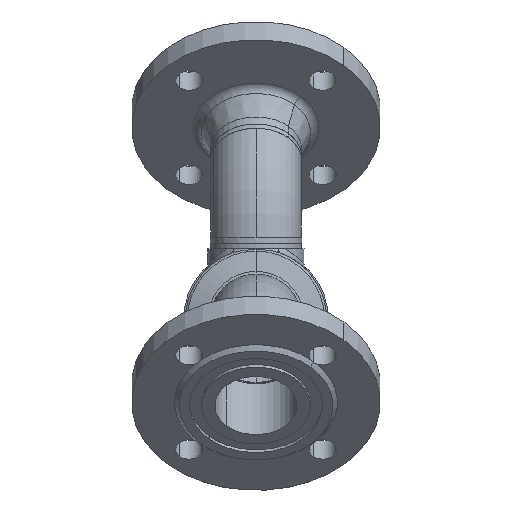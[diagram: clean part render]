
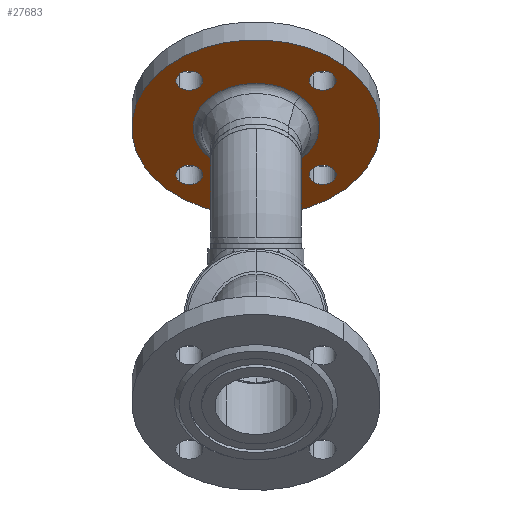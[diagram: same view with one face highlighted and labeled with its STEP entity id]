
A CAD part, front view. The second image highlights one B-rep face of the part: STEP entity #27683.
In plain terms, the highlighted planar face has unit normal (0, -0.707, -0.707) as drawn and (0, 1, 0) by its records, which use the part's own axes.
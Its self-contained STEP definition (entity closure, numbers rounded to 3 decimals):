
#98 = VERTEX_POINT ( 'NONE', #38376 ) ;
#199 = ORIENTED_EDGE ( 'NONE', *, *, #53296, .F. ) ;
#216 = CIRCLE ( 'NONE', #217, 9. ) ;
#217 = AXIS2_PLACEMENT_3D ( 'NONE', #218, #219, #220 ) ;
#218 = CARTESIAN_POINT ( 'NONE',  ( 0., 20., 62.5 ) ) ;
#219 = DIRECTION ( 'NONE',  ( 0., 1., 0. ) ) ;
#220 = DIRECTION ( 'NONE',  ( 0., 0., -1. ) ) ;
#694 = EDGE_CURVE ( 'NONE', #29425, #98, #39372, .T. ) ;
#17394 = CARTESIAN_POINT ( 'NONE',  ( 82.5, 20., 0. ) ) ;
#33803 = VERTEX_POINT ( 'NONE', #17394 ) ;
#1043 = ORIENTED_EDGE ( 'NONE', *, *, #18116, .F. ) ;
#18116 = EDGE_CURVE ( 'NONE', #29721, #28777, #6604, .T. ) ;
#18364 = EDGE_CURVE ( 'NONE', #28777, #29721, #6791, .T. ) ;
#51260 = EDGE_LOOP ( 'NONE', ( #53542, #1043 ) ) ;
#2232 = EDGE_LOOP ( 'NONE', ( #18912, #9824 ) ) ;
#51602 = VERTEX_POINT ( 'NONE', #52934 ) ;
#18912 = ORIENTED_EDGE ( 'NONE', *, *, #13243, .F. ) ;
#51704 = VERTEX_POINT ( 'NONE', #53041 ) ;
#35441 = VERTEX_POINT ( 'NONE', #52347 ) ;
#51904 = ORIENTED_EDGE ( 'NONE', *, *, #48598, .F. ) ;
#52303 = EDGE_CURVE ( 'NONE', #51704, #33803, #11556, .T. ) ;
#52347 = CARTESIAN_POINT ( 'NONE',  ( 9., 20., -62.5 ) ) ;
#3425 = FACE_BOUND ( 'NONE', #27024, .T. ) ;
#3426 = FACE_BOUND ( 'NONE', #22593, .T. ) ;
#3427 = FACE_BOUND ( 'NONE', #5402, .T. ) ;
#3428 = FACE_BOUND ( 'NONE', #51260, .T. ) ;
#3429 = FACE_BOUND ( 'NONE', #2232, .T. ) ;
#3430 = FACE_OUTER_BOUND ( 'NONE', #25632, .T. ) ;
#3431 = PLANE ( 'NONE',  #3432 ) ;
#3432 = AXIS2_PLACEMENT_3D ( 'NONE', #3433, #3434, #3435 ) ;
#3433 = CARTESIAN_POINT ( 'NONE',  ( 82.5, 20., 0. ) ) ;
#3434 = DIRECTION ( 'NONE',  ( 0., -1., 0. ) ) ;
#3435 = DIRECTION ( 'NONE',  ( 1., 0., 0. ) ) ;
#52698 = VERTEX_POINT ( 'NONE', #12252 ) ;
#52934 = CARTESIAN_POINT ( 'NONE',  ( 9., 20., 62.5 ) ) ;
#53041 = CARTESIAN_POINT ( 'NONE',  ( -82.5, 20., 0. ) ) ;
#53296 = EDGE_CURVE ( 'NONE', #25630, #51602, #12889, .T. ) ;
#4226 = CARTESIAN_POINT ( 'NONE',  ( 53.5, 20., 0. ) ) ;
#53542 = ORIENTED_EDGE ( 'NONE', *, *, #18364, .F. ) ;
#21047 = ORIENTED_EDGE ( 'NONE', *, *, #26082, .T. ) ;
#4711 = CARTESIAN_POINT ( 'NONE',  ( 41.687, 20., 0. ) ) ;
#4913 = CARTESIAN_POINT ( 'NONE',  ( 71.5, 20., 0. ) ) ;
#5169 = CARTESIAN_POINT ( 'NONE',  ( -71.5, 20., 0. ) ) ;
#5402 = EDGE_LOOP ( 'NONE', ( #199, #51904 ) ) ;
#21796 = ORIENTED_EDGE ( 'NONE', *, *, #52303, .T. ) ;
#38376 = CARTESIAN_POINT ( 'NONE',  ( -41.687, 20., 0. ) ) ;
#38509 = CARTESIAN_POINT ( 'NONE',  ( -9., 20., 62.5 ) ) ;
#6044 = ORIENTED_EDGE ( 'NONE', *, *, #39357, .F. ) ;
#22593 = EDGE_LOOP ( 'NONE', ( #8225, #6044 ) ) ;
#39242 = CIRCLE ( 'NONE', #39243, 82.5 ) ;
#39243 = AXIS2_PLACEMENT_3D ( 'NONE', #39244, #39293, #39294 ) ;
#39244 = CARTESIAN_POINT ( 'NONE',  ( 0., 20., 0. ) ) ;
#39293 = DIRECTION ( 'NONE',  ( 0., 1., 0. ) ) ;
#39294 = DIRECTION ( 'NONE',  ( -1., 0., 0. ) ) ;
#39357 = EDGE_CURVE ( 'NONE', #14130, #44274, #29225, .T. ) ;
#6604 = CIRCLE ( 'NONE', #6640, 9. ) ;
#39372 = CIRCLE ( 'NONE', #39373, 41.687 ) ;
#39373 = AXIS2_PLACEMENT_3D ( 'NONE', #39374, #39375, #39424 ) ;
#39374 = CARTESIAN_POINT ( 'NONE',  ( 0., 20., 0. ) ) ;
#39375 = DIRECTION ( 'NONE',  ( 0., 1., 0. ) ) ;
#6640 = AXIS2_PLACEMENT_3D ( 'NONE', #6641, #6642, #6643 ) ;
#6641 = CARTESIAN_POINT ( 'NONE',  ( 62.5, 20., 0. ) ) ;
#6642 = DIRECTION ( 'NONE',  ( 0., 1., 0. ) ) ;
#6643 = DIRECTION ( 'NONE',  ( -1., 0., 0. ) ) ;
#39424 = DIRECTION ( 'NONE',  ( -1., 0., 0. ) ) ;
#6791 = CIRCLE ( 'NONE', #6792, 9. ) ;
#6792 = AXIS2_PLACEMENT_3D ( 'NONE', #6793, #6794, #6795 ) ;
#6793 = CARTESIAN_POINT ( 'NONE',  ( 62.5, 20., 0. ) ) ;
#6794 = DIRECTION ( 'NONE',  ( 0., 1., 0. ) ) ;
#6795 = DIRECTION ( 'NONE',  ( -1., 0., 0. ) ) ;
#23242 = ORIENTED_EDGE ( 'NONE', *, *, #11067, .F. ) ;
#7430 = EDGE_CURVE ( 'NONE', #44274, #14130, #25396, .T. ) ;
#8225 = ORIENTED_EDGE ( 'NONE', *, *, #7430, .F. ) ;
#24638 = EDGE_CURVE ( 'NONE', #52698, #35441, #12835, .T. ) ;
#25396 = CIRCLE ( 'NONE', #25397, 9. ) ;
#25397 = AXIS2_PLACEMENT_3D ( 'NONE', #25398, #25399, #25400 ) ;
#25398 = CARTESIAN_POINT ( 'NONE',  ( -62.5, 20., 0. ) ) ;
#25399 = DIRECTION ( 'NONE',  ( 0., 1., 0. ) ) ;
#25400 = DIRECTION ( 'NONE',  ( 1., 0., 0. ) ) ;
#25630 = VERTEX_POINT ( 'NONE', #38509 ) ;
#25631 = ORIENTED_EDGE ( 'NONE', *, *, #24638, .F. ) ;
#25632 = EDGE_LOOP ( 'NONE', ( #21796, #21047 ) ) ;
#26082 = EDGE_CURVE ( 'NONE', #33803, #51704, #39242, .T. ) ;
#9824 = ORIENTED_EDGE ( 'NONE', *, *, #694, .F. ) ;
#27024 = EDGE_LOOP ( 'NONE', ( #25631, #23242 ) ) ;
#11067 = EDGE_CURVE ( 'NONE', #35441, #52698, #11603, .T. ) ;
#27683 = ADVANCED_FACE ( 'NONE', ( #3425, #3426, #3427, #3428, #3429, #3430 ), #3431, .F. ) ;
#44274 = VERTEX_POINT ( 'NONE', #5169 ) ;
#11556 = CIRCLE ( 'NONE', #11557, 82.5 ) ;
#11557 = AXIS2_PLACEMENT_3D ( 'NONE', #11558, #11559, #11593 ) ;
#11558 = CARTESIAN_POINT ( 'NONE',  ( 0., 20., 0. ) ) ;
#11559 = DIRECTION ( 'NONE',  ( 0., 1., 0. ) ) ;
#11593 = DIRECTION ( 'NONE',  ( -1., 0., 0. ) ) ;
#11603 = CIRCLE ( 'NONE', #11604, 9. ) ;
#11604 = AXIS2_PLACEMENT_3D ( 'NONE', #11605, #11606, #11607 ) ;
#11605 = CARTESIAN_POINT ( 'NONE',  ( 0., 20., -62.5 ) ) ;
#11606 = DIRECTION ( 'NONE',  ( 0., 1., 0. ) ) ;
#11607 = DIRECTION ( 'NONE',  ( 0., 0., 1. ) ) ;
#12252 = CARTESIAN_POINT ( 'NONE',  ( -9., 20., -62.5 ) ) ;
#28777 = VERTEX_POINT ( 'NONE', #4226 ) ;
#29064 = CIRCLE ( 'NONE', #29065, 41.687 ) ;
#29065 = AXIS2_PLACEMENT_3D ( 'NONE', #29066, #29067, #29068 ) ;
#29066 = CARTESIAN_POINT ( 'NONE',  ( 0., 20., 0. ) ) ;
#29067 = DIRECTION ( 'NONE',  ( 0., 1., 0. ) ) ;
#29068 = DIRECTION ( 'NONE',  ( -1., 0., 0. ) ) ;
#12835 = CIRCLE ( 'NONE', #12836, 9. ) ;
#12836 = AXIS2_PLACEMENT_3D ( 'NONE', #12837, #12838, #12839 ) ;
#12837 = CARTESIAN_POINT ( 'NONE',  ( 0., 20., -62.5 ) ) ;
#12838 = DIRECTION ( 'NONE',  ( 0., 1., 0. ) ) ;
#12839 = DIRECTION ( 'NONE',  ( 0., 0., 1. ) ) ;
#29225 = CIRCLE ( 'NONE', #29226, 9. ) ;
#29226 = AXIS2_PLACEMENT_3D ( 'NONE', #29261, #29262, #29263 ) ;
#29261 = CARTESIAN_POINT ( 'NONE',  ( -62.5, 20., 0. ) ) ;
#29262 = DIRECTION ( 'NONE',  ( 0., 1., 0. ) ) ;
#29263 = DIRECTION ( 'NONE',  ( 1., 0., 0. ) ) ;
#12889 = CIRCLE ( 'NONE', #12890, 9. ) ;
#12890 = AXIS2_PLACEMENT_3D ( 'NONE', #12891, #12892, #12893 ) ;
#12891 = CARTESIAN_POINT ( 'NONE',  ( 0., 20., 62.5 ) ) ;
#12892 = DIRECTION ( 'NONE',  ( 0., 1., 0. ) ) ;
#12893 = DIRECTION ( 'NONE',  ( 0., 0., -1. ) ) ;
#29425 = VERTEX_POINT ( 'NONE', #4711 ) ;
#13243 = EDGE_CURVE ( 'NONE', #98, #29425, #29064, .T. ) ;
#29617 = CARTESIAN_POINT ( 'NONE',  ( -53.5, 20., 0. ) ) ;
#29721 = VERTEX_POINT ( 'NONE', #4913 ) ;
#14130 = VERTEX_POINT ( 'NONE', #29617 ) ;
#48598 = EDGE_CURVE ( 'NONE', #51602, #25630, #216, .T. ) ;
